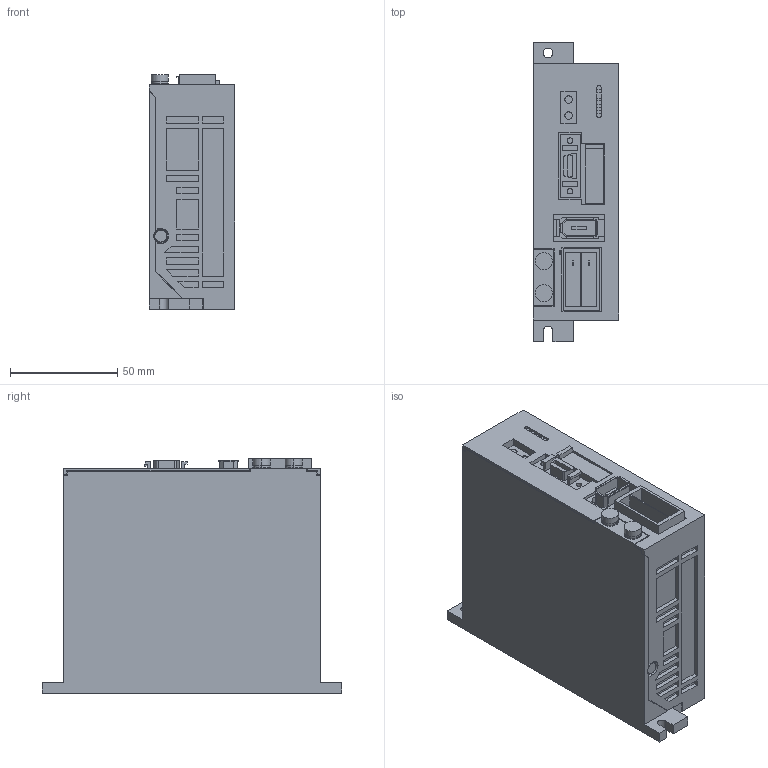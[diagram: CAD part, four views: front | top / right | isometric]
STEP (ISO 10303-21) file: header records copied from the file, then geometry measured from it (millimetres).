
FILE_DESCRIPTION (( 'STEP AP203' ), '1' );
FILE_NAME ('sjde_04apa_oy.STEP', '2011-11-08T23:37:53', ( '匠エンジニアリング山之内' ), ( 'TAKUMI-Engniaring' ), 'SwSTEP 2.0', 'SolidWorks 2006303', '' );
FILE_SCHEMA (( 'CONFIG_CONTROL_DESIGN' ));
Length unit declared in the file: millimetre
Products named in the file (1): sjde_04apa_oy
Bounding box: 40.1 x 140 x 109.6 mm (x, y, z)
Volume: 495260.3 mm3; surface area: 55509.7 mm2
Topology: 1 solids, 1 shells, 469 faces, 1194 edges, 790 vertices
Faces by surface type: plane 423, cylinder 46
Entity records: 13999 total; most frequent: CARTESIAN_POINT 2454, ORIENTED_EDGE 2388, DIRECTION 2228, EDGE_CURVE 1194, VECTOR 1100, LINE 1100, VERTEX_POINT 790, AXIS2_PLACEMENT_3D 564
